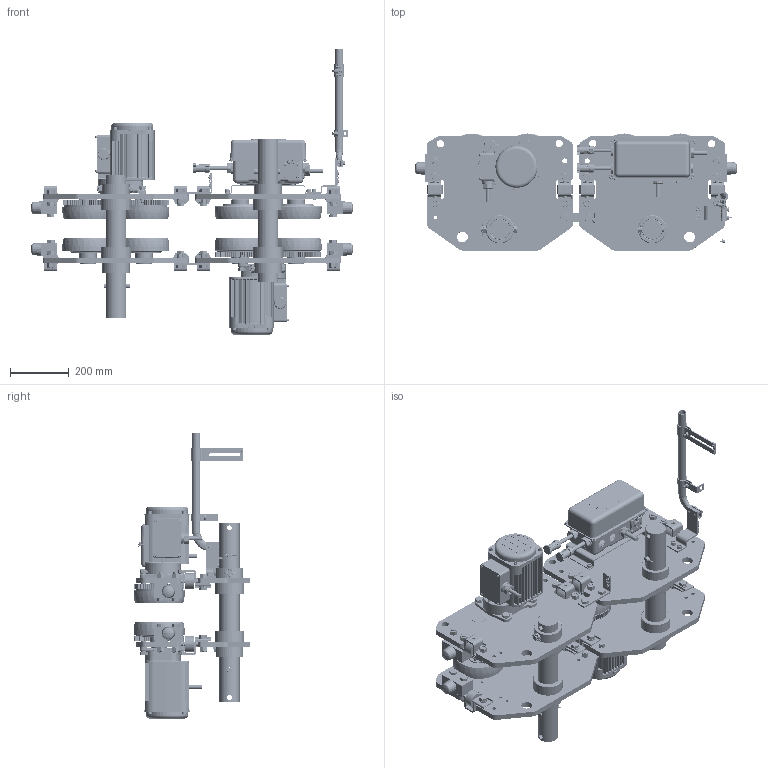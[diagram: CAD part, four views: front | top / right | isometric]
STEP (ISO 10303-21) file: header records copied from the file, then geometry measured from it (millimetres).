
FILE_DESCRIPTION (( 'STEP AP214' ), '1' );
FILE_NAME ('MR2150L.STEP', '2026-08-10T17:27:52', ( '' ), ( '' ), 'SwSTEP 2.0', 'SolidWorks 2026', '' );
FILE_SCHEMA (( 'AUTOMOTIVE_DESIGN' ));
Length unit declared in the file: inch
Products named in the file (97): 12-4 (MR2); ECP5924AB1; J1SR000-00100_9047145; MR1DS9496; MR1JS9225; MR1GS1211 ATTACHMENT; 9093433_9093433; 9009436_9009436; ECP6916AA; MR1GS1211_Reversed; E3S658015; MR1DS9501; MR2HS1759; MR1IS5202; E6F630010S; M6SE100S9114; 6077802; 9009435_9009435; 9012711_9012711; E6F151003; J1AP26000808_J1AP26000808; 9093439_9093439; MR1IS9201; MR2SHM1PS9A7; MR1GS9324; MR1DS1481; 9047145_9047145; MS105150; MR1IS5201; MR1FS9631; MR1IS9203; MR1DS1493; MR1DS9421; 90912134_90912134; Socket Head Cap Screw_AM_B18.3.1M - 10 x 1.5 x 20 Hex SHCS -- 20NHX; MS104075; MS529010; MR1GS1211 BODY; MR2150L; MR1DS9491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
Assembly tree (312 placements, depth 5):
  MR2150L
    MR1IS5201  x2
      MR1IS9201
      MR1IS9203
      M6SE100S9113
    MR1IS5202  x2
      MR1IS9202
      MR1IS9203
      M6SE100S9114
    MS1101075  x4
      M6SE100S9101
      6309Z Bearing
      J1SR000-00100_9047145
    MS1102075  x4
      M6SE100S9102
      6309Z Bearing
      J1SR000-00100_9047145
    MS104075  x8
    9047145_9047145  x8
    MR1GS1211_Reversed  x4
      MR1GS1211 BODY
      MR1GS1211 ATTACHMENT
    MR1GS1211  x4
      MR1GS1211 BODY
      MR1GS1211 ATTACHMENT
    9012715_9012715  x12
    90933116_90933116  x20
    9093439_9093439  x24
    MR1IS9634  x4
    MS006050  x4
    MR1FS9631  x4
    9012711_9012711  x16
    9093196_9093196  x8
    MS105150
    MR1JS9225
    E6L614010S
    9012713_9012713  x4
    9093433_9093433  x4
    70165XX_7016503
      MR1DS9401_10 S TON - 20 TON
      MR1DS9411
      MR1DS9421
      external tooth lock washer_am_PreviewCfg  x4
      MS554010  x12
      MR2HS1768
        60704
          ECP5924AA1
          ECP5924AD1
          ECP5924AC1
          KITO-WASHER
          ECP5924AB1
        16-6P (MR2)
        ECP2108AC
        ECP6916AA
      MR2HS1759
        60704
          ECP5924AA1
          ECP5924AD1
          ECP5924AC1
          KITO-WASHER
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Bounding box: 1102 x 399.5 x 973.91 mm (x, y, z)
Volume: 37511225.9 mm3; surface area: 5936642.8 mm2
Topology: 390 solids, 422 shells, 15134 faces, 39489 edges, 25684 vertices
Faces by surface type: plane 7177, cylinder 4073, cone 1660, bspline 1574, torus 598, sphere 52
Entity records: 218391 total; most frequent: CARTESIAN_POINT 88936, ORIENTED_EDGE 26694, DIRECTION 24365, EDGE_CURVE 13349, VERTEX_POINT 8894, AXIS2_PLACEMENT_3D 8737, VECTOR 6891, LINE 6891
